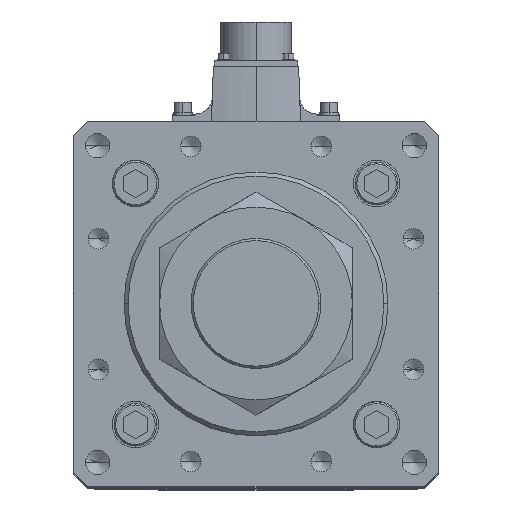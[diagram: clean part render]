
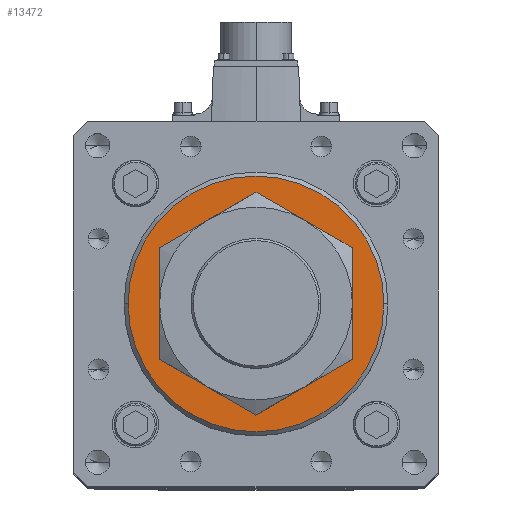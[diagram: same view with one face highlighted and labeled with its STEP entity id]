
A CAD part, top view. The second image highlights one B-rep face of the part: STEP entity #13472.
In plain terms, the highlighted planar face has unit normal (0, 0, 1).
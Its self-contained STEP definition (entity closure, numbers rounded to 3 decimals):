
#28 = ORIENTED_EDGE ( 'NONE', *, *, #43846, .T. ) ;
#414 = DIRECTION ( 'NONE',  ( 1., 0., 0. ) ) ;
#745 = CARTESIAN_POINT ( 'NONE',  ( -63., 0., 512. ) ) ;
#1660 = EDGE_CURVE ( 'NONE', #29753, #53336, #10059, .T. ) ;
#4233 = CIRCLE ( 'NONE', #6472, 40.5 ) ;
#5781 = EDGE_CURVE ( 'NONE', #43994, #32445, #53162, .T. ) ;
#6076 = DIRECTION ( 'NONE',  ( 1., 0., 0. ) ) ;
#6234 = ORIENTED_EDGE ( 'NONE', *, *, #5781, .T. ) ;
#6472 = AXIS2_PLACEMENT_3D ( 'NONE', #30219, #47228, #51494 ) ;
#6695 = EDGE_LOOP ( 'NONE', ( #6234, #28 ) ) ;
#8904 = FACE_OUTER_BOUND ( 'NONE', #50166, .T. ) ;
#10059 = CIRCLE ( 'NONE', #22634, 63. ) ;
#12199 = CARTESIAN_POINT ( 'NONE',  ( 0., 0., 512. ) ) ;
#13472 = ADVANCED_FACE ( 'NONE', ( #18221, #8904 ), #32458, .T. ) ;
#18221 = FACE_BOUND ( 'NONE', #6695, .T. ) ;
#20219 = AXIS2_PLACEMENT_3D ( 'NONE', #12199, #29308, #46119 ) ;
#22634 = AXIS2_PLACEMENT_3D ( 'NONE', #44260, #44441, #6076 ) ;
#25963 = CARTESIAN_POINT ( 'NONE',  ( 0., 0., 512. ) ) ;
#28381 = DIRECTION ( 'NONE',  ( 1., 0., 0. ) ) ;
#29308 = DIRECTION ( 'NONE',  ( 0., 0., -1. ) ) ;
#29753 = VERTEX_POINT ( 'NONE', #47522 ) ;
#30219 = CARTESIAN_POINT ( 'NONE',  ( 0., 0., 512. ) ) ;
#32445 = VERTEX_POINT ( 'NONE', #42157 ) ;
#32458 = PLANE ( 'NONE',  #48857 ) ;
#36520 = CIRCLE ( 'NONE', #43070, 63. ) ;
#41206 = DIRECTION ( 'NONE',  ( 0., 0., 1. ) ) ;
#41748 = DIRECTION ( 'NONE',  ( 0., 0., 1. ) ) ;
#42157 = CARTESIAN_POINT ( 'NONE',  ( -40.5, 0., 512. ) ) ;
#43070 = AXIS2_PLACEMENT_3D ( 'NONE', #25963, #41748, #414 ) ;
#43846 = EDGE_CURVE ( 'NONE', #32445, #43994, #4233, .T. ) ;
#43994 = VERTEX_POINT ( 'NONE', #49237 ) ;
#44260 = CARTESIAN_POINT ( 'NONE',  ( 0., 0., 512. ) ) ;
#44441 = DIRECTION ( 'NONE',  ( 0., 0., 1. ) ) ;
#45533 = CARTESIAN_POINT ( 'NONE',  ( 0., 0., 512. ) ) ;
#46119 = DIRECTION ( 'NONE',  ( 1., 0., 0. ) ) ;
#46773 = ORIENTED_EDGE ( 'NONE', *, *, #1660, .T. ) ;
#47228 = DIRECTION ( 'NONE',  ( 0., 0., -1. ) ) ;
#47522 = CARTESIAN_POINT ( 'NONE',  ( 63., 0., 512. ) ) ;
#48857 = AXIS2_PLACEMENT_3D ( 'NONE', #45533, #41206, #28381 ) ;
#49237 = CARTESIAN_POINT ( 'NONE',  ( 40.5, 0., 512. ) ) ;
#50166 = EDGE_LOOP ( 'NONE', ( #55118, #46773 ) ) ;
#50523 = EDGE_CURVE ( 'NONE', #53336, #29753, #36520, .T. ) ;
#51494 = DIRECTION ( 'NONE',  ( 1., 0., 0. ) ) ;
#53162 = CIRCLE ( 'NONE', #20219, 40.5 ) ;
#53336 = VERTEX_POINT ( 'NONE', #745 ) ;
#55118 = ORIENTED_EDGE ( 'NONE', *, *, #50523, .T. ) ;
